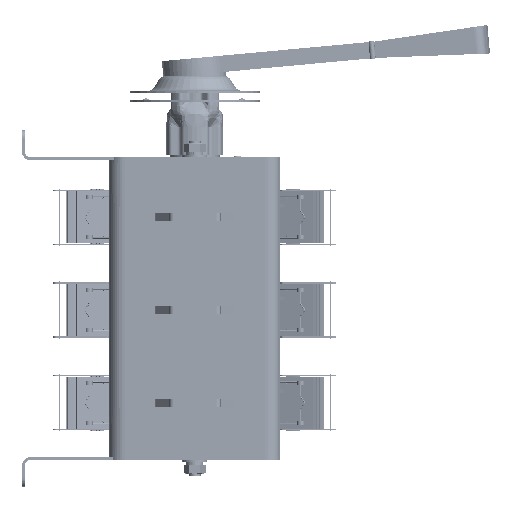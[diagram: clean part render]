
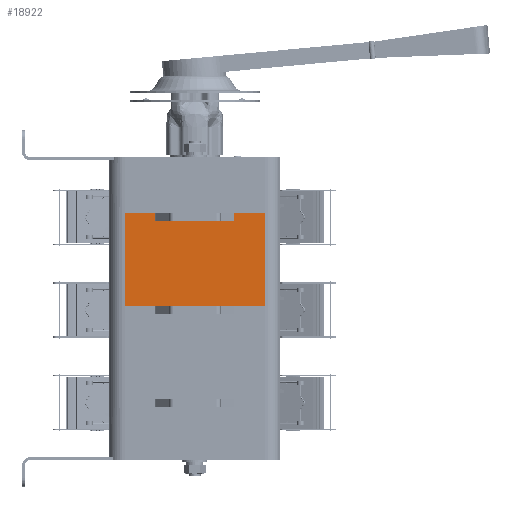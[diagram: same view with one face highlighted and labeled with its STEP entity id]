
A CAD part, front view. The second image highlights one B-rep face of the part: STEP entity #18922.
In plain terms, the highlighted planar face has unit normal (0, -1, 0).
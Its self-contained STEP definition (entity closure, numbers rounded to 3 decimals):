
#1781 = LINE ( 'NONE', #99396, #29163 ) ;
#2316 = VERTEX_POINT ( 'NONE', #43184 ) ;
#2796 = CARTESIAN_POINT ( 'NONE',  ( 27.6, -57., 37. ) ) ;
#5928 = ORIENTED_EDGE ( 'NONE', *, *, #32446, .F. ) ;
#6222 = DIRECTION ( 'NONE',  ( 0., 0., -1. ) ) ;
#7188 = CARTESIAN_POINT ( 'NONE',  ( -49., -57., 4. ) ) ;
#7485 = EDGE_CURVE ( 'NONE', #61770, #77110, #88749, .T. ) ;
#12487 = ORIENTED_EDGE ( 'NONE', *, *, #112584, .T. ) ;
#15296 = CARTESIAN_POINT ( 'NONE',  ( -49., -57., 37. ) ) ;
#15858 = EDGE_CURVE ( 'NONE', #102165, #90174, #78960, .T. ) ;
#16032 = DIRECTION ( 'NONE',  ( 1., 0., 0. ) ) ;
#16318 = LINE ( 'NONE', #63640, #64332 ) ;
#16638 = ORIENTED_EDGE ( 'NONE', *, *, #46675, .F. ) ;
#18922 = ADVANCED_FACE ( 'NONE', ( #45641 ), #33984, .F. ) ;
#19787 = ORIENTED_EDGE ( 'NONE', *, *, #15858, .T. ) ;
#24225 = VECTOR ( 'NONE', #54930, 1000. ) ;
#24345 = ORIENTED_EDGE ( 'NONE', *, *, #113238, .F. ) ;
#24458 = DIRECTION ( 'NONE',  ( -1., 0., 0. ) ) ;
#29163 = VECTOR ( 'NONE', #46970, 1000. ) ;
#32446 = EDGE_CURVE ( 'NONE', #2316, #87702, #61041, .T. ) ;
#32589 = VECTOR ( 'NONE', #108066, 1000. ) ;
#33984 = PLANE ( 'NONE',  #48640 ) ;
#34493 = CARTESIAN_POINT ( 'NONE',  ( 27.6, -57., 37. ) ) ;
#36618 = LINE ( 'NONE', #15296, #80449 ) ;
#42432 = DIRECTION ( 'NONE',  ( 0., 1., 0. ) ) ;
#43184 = CARTESIAN_POINT ( 'NONE',  ( -27.6, -57., 31.2 ) ) ;
#45339 = CARTESIAN_POINT ( 'NONE',  ( -49., -57., 31.2 ) ) ;
#45641 = FACE_OUTER_BOUND ( 'NONE', #92461, .T. ) ;
#46675 = EDGE_CURVE ( 'NONE', #77110, #85849, #104538, .T. ) ;
#46970 = DIRECTION ( 'NONE',  ( 0., 0., -1. ) ) ;
#48640 = AXIS2_PLACEMENT_3D ( 'NONE', #7188, #42432, #24458 ) ;
#51470 = ORIENTED_EDGE ( 'NONE', *, *, #72194, .F. ) ;
#54299 = CARTESIAN_POINT ( 'NONE',  ( -27.6, -57., 37. ) ) ;
#54813 = DIRECTION ( 'NONE',  ( 0., 0., -1. ) ) ;
#54930 = DIRECTION ( 'NONE',  ( -1., 0., 0. ) ) ;
#57817 = CARTESIAN_POINT ( 'NONE',  ( 27.6, -57., 31.2 ) ) ;
#58478 = LINE ( 'NONE', #80602, #24225 ) ;
#61041 = LINE ( 'NONE', #45339, #76105 ) ;
#61770 = VERTEX_POINT ( 'NONE', #34493 ) ;
#63640 = CARTESIAN_POINT ( 'NONE',  ( 27.6, -57., 37. ) ) ;
#64332 = VECTOR ( 'NONE', #54813, 1000. ) ;
#67088 = DIRECTION ( 'NONE',  ( 0., 0., -1. ) ) ;
#71485 = EDGE_CURVE ( 'NONE', #102165, #110611, #36618, .T. ) ;
#72194 = EDGE_CURVE ( 'NONE', #85849, #90174, #58478, .T. ) ;
#73172 = ORIENTED_EDGE ( 'NONE', *, *, #7485, .F. ) ;
#76105 = VECTOR ( 'NONE', #97395, 1000. ) ;
#76672 = CARTESIAN_POINT ( 'NONE',  ( -49., -57., 4. ) ) ;
#77110 = VERTEX_POINT ( 'NONE', #105395 ) ;
#78960 = LINE ( 'NONE', #76672, #80270 ) ;
#80270 = VECTOR ( 'NONE', #67088, 1000. ) ;
#80449 = VECTOR ( 'NONE', #16032, 1000. ) ;
#80602 = CARTESIAN_POINT ( 'NONE',  ( -49., -57., -28. ) ) ;
#81954 = ORIENTED_EDGE ( 'NONE', *, *, #71485, .F. ) ;
#82697 = VECTOR ( 'NONE', #6222, 1000. ) ;
#85849 = VERTEX_POINT ( 'NONE', #93726 ) ;
#86068 = CARTESIAN_POINT ( 'NONE',  ( -49., -57., -28. ) ) ;
#87702 = VERTEX_POINT ( 'NONE', #57817 ) ;
#88749 = LINE ( 'NONE', #2796, #32589 ) ;
#90174 = VERTEX_POINT ( 'NONE', #86068 ) ;
#91696 = CARTESIAN_POINT ( 'NONE',  ( -49., -57., 37. ) ) ;
#92461 = EDGE_LOOP ( 'NONE', ( #19787, #51470, #16638, #73172, #12487, #5928, #24345, #81954 ) ) ;
#93726 = CARTESIAN_POINT ( 'NONE',  ( 49., -57., -28. ) ) ;
#97395 = DIRECTION ( 'NONE',  ( 1., 0., 0. ) ) ;
#99396 = CARTESIAN_POINT ( 'NONE',  ( -27.6, -57., 37. ) ) ;
#102165 = VERTEX_POINT ( 'NONE', #91696 ) ;
#102660 = CARTESIAN_POINT ( 'NONE',  ( 49., -57., 4. ) ) ;
#104538 = LINE ( 'NONE', #102660, #82697 ) ;
#105395 = CARTESIAN_POINT ( 'NONE',  ( 49., -57., 37. ) ) ;
#108066 = DIRECTION ( 'NONE',  ( 1., 0., 0. ) ) ;
#110611 = VERTEX_POINT ( 'NONE', #54299 ) ;
#112584 = EDGE_CURVE ( 'NONE', #61770, #87702, #16318, .T. ) ;
#113238 = EDGE_CURVE ( 'NONE', #110611, #2316, #1781, .T. ) ;
